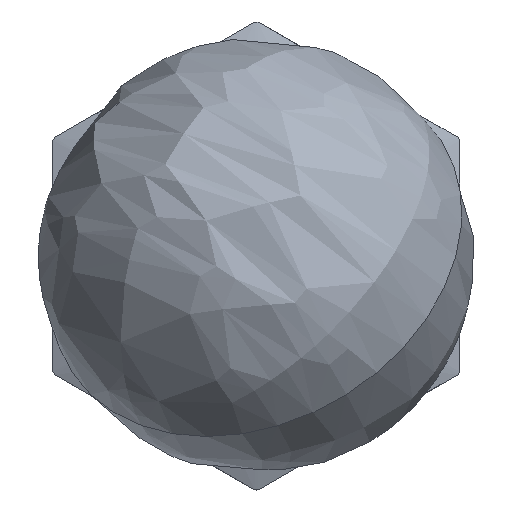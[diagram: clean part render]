
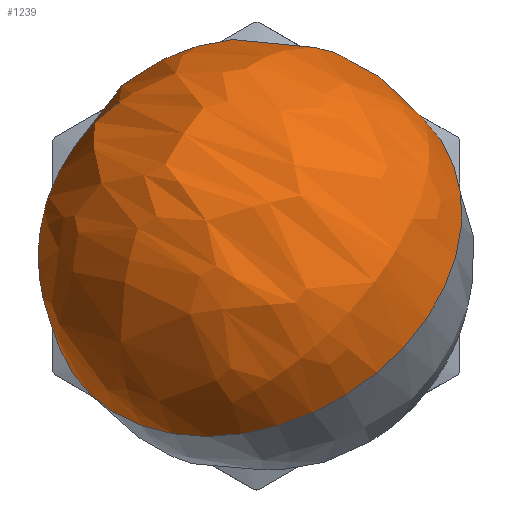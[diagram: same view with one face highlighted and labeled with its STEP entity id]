
A CAD part, front view. The second image highlights one B-rep face of the part: STEP entity #1239.
In plain terms, the highlighted free-form (B-spline) face has degree [3, 3] with [4, 4] control points.
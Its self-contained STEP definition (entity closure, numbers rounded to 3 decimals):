
#13 = CIRCLE ( 'NONE', #1492, 6. ) ;
#53 = ORIENTED_EDGE ( 'NONE', *, *, #531, .F. ) ;
#58 = EDGE_LOOP ( 'NONE', ( #412, #1480, #53, #1064 ) ) ;
#90 = CARTESIAN_POINT ( 'NONE',  ( 0., -14.5, 0. ) ) ;
#95 = DIRECTION ( 'NONE',  ( -0.334, -0.758, 0.561 ) ) ;
#103 = DIRECTION ( 'NONE',  ( 0.527, 0.343, 0.777 ) ) ;
#111 = CARTESIAN_POINT ( 'NONE',  ( -3.954, -17.073, -5.83 ) ) ;
#118 = CARTESIAN_POINT ( 'NONE',  ( 3.954, -11.927, 5.83 ) ) ;
#147 = CARTESIAN_POINT ( 'NONE',  ( 7.768, -25.397, -10.107 ) ) ;
#150 = EDGE_CURVE ( 'NONE', #1158, #1055, #1434, .T. ) ;
#245 = CARTESIAN_POINT ( 'NONE',  ( 0., -10., 0. ) ) ;
#264 = CARTESIAN_POINT ( 'NONE',  ( -2.239, -48.133, 6.714 ) ) ;
#268 = VERTEX_POINT ( 'NONE', #347 ) ;
#281 = CARTESIAN_POINT ( 'NONE',  ( 3.954, -11.927, 5.83 ) ) ;
#347 = CARTESIAN_POINT ( 'NONE',  ( -0.141, -10., 5.998 ) ) ;
#352 = EDGE_CURVE ( 'NONE', #1100, #1055, #1292, .T. ) ;
#404 = CARTESIAN_POINT ( 'NONE',  ( -15.677, -8.749, -1.553 ) ) ;
#412 = ORIENTED_EDGE ( 'NONE', *, *, #352, .F. ) ;
#413 = CARTESIAN_POINT ( 'NONE',  ( 3.954, -11.927, 5.83 ) ) ;
#436 = CARTESIAN_POINT ( 'NONE',  ( 0., -14.5, 0. ) ) ;
#442 = DIRECTION ( 'NONE',  ( 0.334, 0.758, -0.561 ) ) ;
#493 = AXIS2_PLACEMENT_3D ( 'NONE', #90, #95, #103 ) ;
#524 = DIRECTION ( 'NONE',  ( 0.527, 0.343, 0.777 ) ) ;
#525 = CARTESIAN_POINT ( 'NONE',  ( -3.954, -17.073, -5.83 ) ) ;
#531 = EDGE_CURVE ( 'NONE', #1158, #268, #13, .T. ) ;
#533 = DIRECTION ( 'NONE',  ( 0., 1., 0. ) ) ;
#549 = CARTESIAN_POINT ( 'NONE',  ( 5.67, -42.986, 18.374 ) ) ;
#569 = CARTESIAN_POINT ( 'NONE',  ( 3.954, -11.927, 5.83 ) ) ;
#616 = DIRECTION ( 'NONE',  ( 0.527, 0.343, 0.777 ) ) ;
#665 = DIRECTION ( 'NONE',  ( 0., 0., -1. ) ) ;
#690 = CARTESIAN_POINT ( 'NONE',  ( -7.768, -3.603, 10.107 ) ) ;
#751 = EDGE_CURVE ( 'NONE', #1100, #268, #1461, .T. ) ;
#761 = CARTESIAN_POINT ( 'NONE',  ( 0., -14.5, 0. ) ) ;
#928 = CARTESIAN_POINT ( 'NONE',  ( -3.954, -17.073, -5.83 ) ) ;
#947 = AXIS2_PLACEMENT_3D ( 'NONE', #761, #1427, #616 ) ;
#1006 =( BOUNDED_SURFACE ( )  B_SPLINE_SURFACE ( 3, 3, ( 
 ( #569, #281, #413, #1485 ),
 ( #690, #1380, #549, #1270 ),
 ( #404, #1163, #264, #147 ),
 ( #1049, #928, #1486, #111 ) ),
 .UNSPECIFIED., .F., .F., .F. ) 
 B_SPLINE_SURFACE_WITH_KNOTS ( ( 4, 4 ),
 ( 4, 4 ),
 ( 0., 1. ),
 ( 0., 1. ),
 .UNSPECIFIED. ) 
 GEOMETRIC_REPRESENTATION_ITEM ( )  RATIONAL_B_SPLINE_SURFACE ( (
 ( 1., 0.333, 0.333, 1.),
 ( 0.333, 0.111, 0.111, 0.333),
 ( 0.333, 0.111, 0.111, 0.333),
 ( 1., 0.333, 0.333, 1.) ) ) 
 REPRESENTATION_ITEM ( '' )  SURFACE ( )  );
#1049 = CARTESIAN_POINT ( 'NONE',  ( -3.954, -17.073, -5.83 ) ) ;
#1055 = VERTEX_POINT ( 'NONE', #525 ) ;
#1064 = ORIENTED_EDGE ( 'NONE', *, *, #150, .T. ) ;
#1100 = VERTEX_POINT ( 'NONE', #118 ) ;
#1158 = VERTEX_POINT ( 'NONE', #1215 ) ;
#1163 = CARTESIAN_POINT ( 'NONE',  ( -25.684, -31.484, 15.268 ) ) ;
#1215 = CARTESIAN_POINT ( 'NONE',  ( -5.204, -10., 2.986 ) ) ;
#1239 = ADVANCED_FACE ( 'NONE', ( #1241 ), #1006, .T. ) ;
#1241 = FACE_OUTER_BOUND ( 'NONE', #58, .T. ) ;
#1270 = CARTESIAN_POINT ( 'NONE',  ( 15.677, -20.251, 1.553 ) ) ;
#1292 = CIRCLE ( 'NONE', #1377, 7.5 ) ;
#1377 = AXIS2_PLACEMENT_3D ( 'NONE', #436, #442, #524 ) ;
#1380 = CARTESIAN_POINT ( 'NONE',  ( -17.775, -26.338, 26.929 ) ) ;
#1427 = DIRECTION ( 'NONE',  ( -0.334, -0.758, 0.561 ) ) ;
#1434 = CIRCLE ( 'NONE', #493, 7.5 ) ;
#1461 = CIRCLE ( 'NONE', #947, 7.5 ) ;
#1480 = ORIENTED_EDGE ( 'NONE', *, *, #751, .T. ) ;
#1485 = CARTESIAN_POINT ( 'NONE',  ( 3.954, -11.927, 5.83 ) ) ;
#1486 = CARTESIAN_POINT ( 'NONE',  ( -3.954, -17.073, -5.83 ) ) ;
#1492 = AXIS2_PLACEMENT_3D ( 'NONE', #245, #533, #665 ) ;
